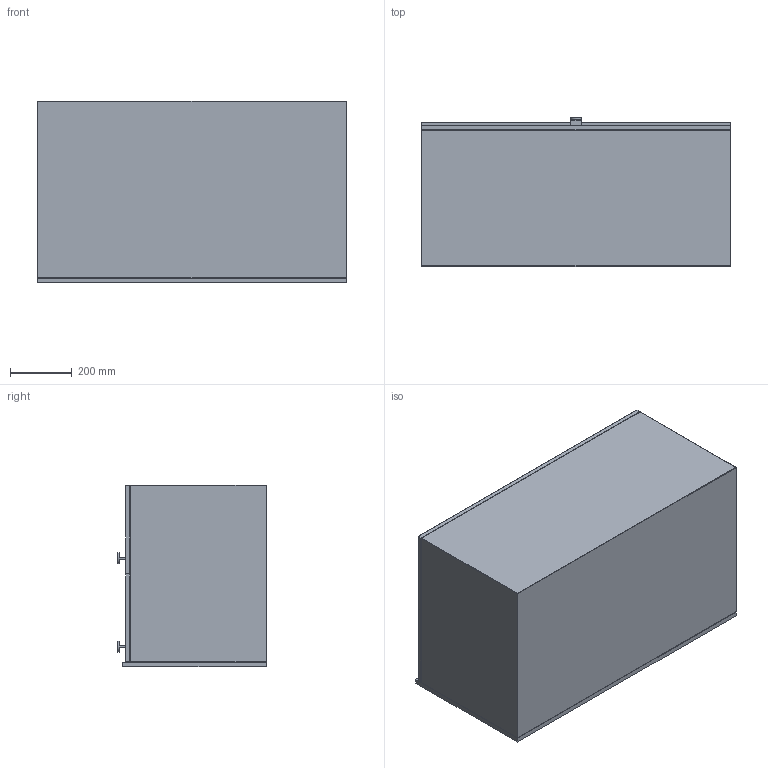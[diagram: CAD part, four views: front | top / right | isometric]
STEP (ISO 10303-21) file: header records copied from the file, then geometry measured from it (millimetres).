
FILE_DESCRIPTION (( 'STEP AP203' ), '1' );
FILE_NAME ('H3-100-Kommod-Shell-drawing.STEP', '2024-10-23T13:21:16', ( '' ), ( '' ), 'SwSTEP 2.0', 'SolidWorks 2024', '' );
FILE_SCHEMA (( 'CONFIG_CONTROL_DESIGN' ));
Length unit declared in the file: millimetre
Products named in the file (5): KNOB A2.01; Stenskiva-1000x465x15; Kommod-skal-1000x572x440; H3-100-Kommod-Shell-drawing; Lucka-1000x286x15
Assembly tree (6 placements, depth 2):
  H3-100-Kommod-Shell-drawing
    Kommod-skal-1000x572x440
    Lucka-1000x286x15  x2
    Stenskiva-1000x465x15
    KNOB A2.01  x2
Bounding box: 1000 x 481 x 587 mm (x, y, z)
Volume: 267251701.3 mm3; surface area: 4723687.7 mm2
Topology: 6 solids, 6 shells, 110 faces, 234 edges, 116 vertices
Faces by surface type: cylinder 46, plane 40, sphere 24
Full cylindrical faces by diameter (mm): 4 x4, 35 x2
Entity records: 2357 total; most frequent: DIRECTION 344, CARTESIAN_POINT 344, ORIENTED_EDGE 262, AXIS2_PLACEMENT_3D 137, EDGE_CURVE 131, EDGE_LOOP 76, FACE_OUTER_BOUND 74, VERTEX_POINT 73
